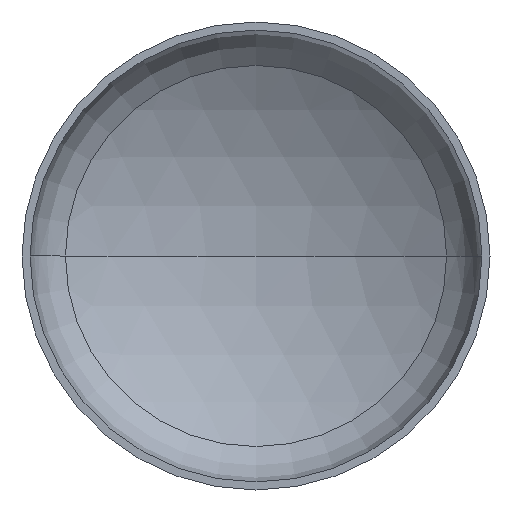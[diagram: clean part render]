
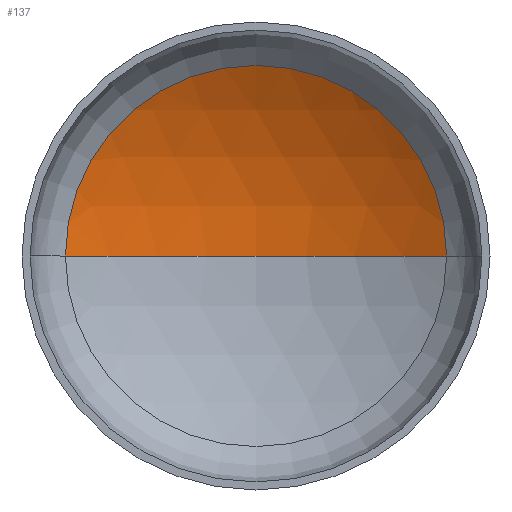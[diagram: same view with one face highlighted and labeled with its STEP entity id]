
A CAD part, front view. The second image highlights one B-rep face of the part: STEP entity #137.
In plain terms, the highlighted spherical face has radius 4000 mm.
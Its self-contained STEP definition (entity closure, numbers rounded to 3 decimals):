
#8 = EDGE_LOOP ( 'NONE', ( #62, #9, #410 ) ) ;
#9 = ORIENTED_EDGE ( 'NONE', *, *, #353, .T. ) ;
#10 = AXIS2_PLACEMENT_3D ( 'NONE', #91, #142, #146 ) ;
#14 = AXIS2_PLACEMENT_3D ( 'NONE', #352, #256, #152 ) ;
#15 = VERTEX_POINT ( 'NONE', #371 ) ;
#24 = AXIS2_PLACEMENT_3D ( 'NONE', #226, #395, #253 ) ;
#60 = AXIS2_PLACEMENT_3D ( 'NONE', #287, #187, #225 ) ;
#62 = ORIENTED_EDGE ( 'NONE', *, *, #333, .F. ) ;
#79 = VERTEX_POINT ( 'NONE', #241 ) ;
#91 = CARTESIAN_POINT ( 'NONE',  ( 0., -2680.317, 0. ) ) ;
#122 = VERTEX_POINT ( 'NONE', #210 ) ;
#137 = ADVANCED_FACE ( 'NONE', ( #188 ), #261, .F. ) ;
#142 = DIRECTION ( 'NONE',  ( 0., 0., -1. ) ) ;
#146 = DIRECTION ( 'NONE',  ( -1., 0., 0. ) ) ;
#152 = DIRECTION ( 'NONE',  ( 1., 0., 0. ) ) ;
#157 = CIRCLE ( 'NONE', #10, 4000. ) ;
#187 = DIRECTION ( 'NONE',  ( 0., 0., -1. ) ) ;
#188 = FACE_OUTER_BOUND ( 'NONE', #8, .T. ) ;
#210 = CARTESIAN_POINT ( 'NONE',  ( 2035.913, 762.8, 0. ) ) ;
#225 = DIRECTION ( 'NONE',  ( -1., 0., 0. ) ) ;
#226 = CARTESIAN_POINT ( 'NONE',  ( 0., -2680.317, 0. ) ) ;
#227 = CIRCLE ( 'NONE', #14, 2035.913 ) ;
#241 = CARTESIAN_POINT ( 'NONE',  ( 0., 1319.683, 0. ) ) ;
#253 = DIRECTION ( 'NONE',  ( 1., 0., 0. ) ) ;
#256 = DIRECTION ( 'NONE',  ( 0., -1., 0. ) ) ;
#261 = SPHERICAL_SURFACE ( 'NONE', #60, 4000. ) ;
#287 = CARTESIAN_POINT ( 'NONE',  ( 0., -2680.317, 0. ) ) ;
#333 = EDGE_CURVE ( 'NONE', #79, #15, #356, .T. ) ;
#346 = EDGE_CURVE ( 'NONE', #122, #15, #227, .T. ) ;
#352 = CARTESIAN_POINT ( 'NONE',  ( 0., 762.8, 0. ) ) ;
#353 = EDGE_CURVE ( 'NONE', #79, #122, #157, .T. ) ;
#356 = CIRCLE ( 'NONE', #24, 4000. ) ;
#371 = CARTESIAN_POINT ( 'NONE',  ( -2035.913, 762.8, 0. ) ) ;
#395 = DIRECTION ( 'NONE',  ( 0., 0., 1. ) ) ;
#410 = ORIENTED_EDGE ( 'NONE', *, *, #346, .T. ) ;
